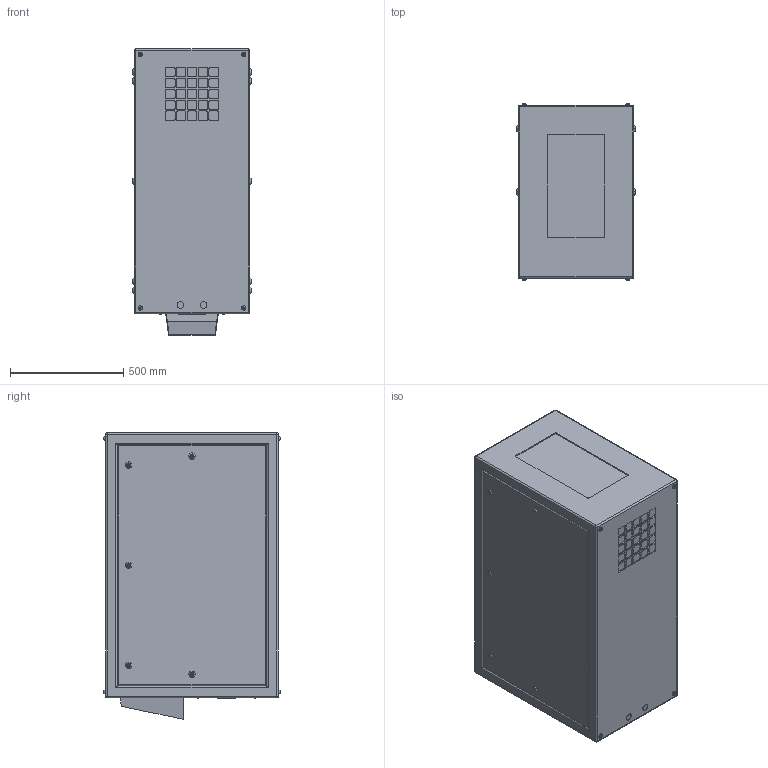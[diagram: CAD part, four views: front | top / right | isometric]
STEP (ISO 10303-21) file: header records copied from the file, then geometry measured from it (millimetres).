
FILE_DESCRIPTION (( 'STEP AP214' ), '1' );
FILE_NAME ('Cyclone 55.204.P R10.STEP', '2022-09-08T19:01:43', ( '' ), ( '' ), 'SwSTEP 2.0', 'SolidWorks 2020', '' );
FILE_SCHEMA (( 'AUTOMOTIVE_DESIGN' ));
Length unit declared in the file: inch
Products named in the file (1): Cyclone 55.204.P R10
Bounding box: 520.7 x 776.6 x 1263.65 mm (x, y, z)
Volume: 180635853.1 mm3; surface area: 6905418 mm2
Topology: 1 solids, 8 shells, 635 faces, 1504 edges, 968 vertices
Faces by surface type: plane 307, cylinder 272, torus 48, sphere 8
Entity records: 23006 total; most frequent: CARTESIAN_POINT 3564, DIRECTION 3280, ORIENTED_EDGE 2992, EDGE_CURVE 1496, AXIS2_PLACEMENT_3D 1228, VERTEX_POINT 968, VECTOR 824, LINE 824
